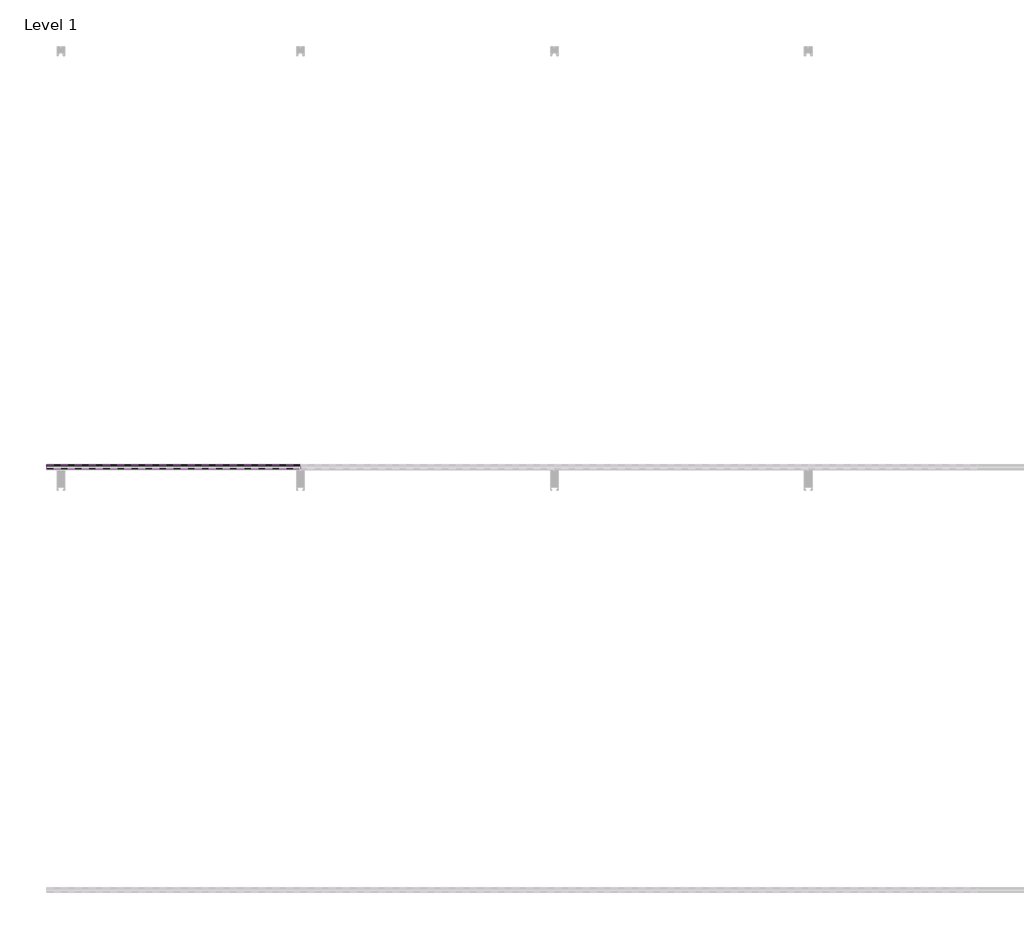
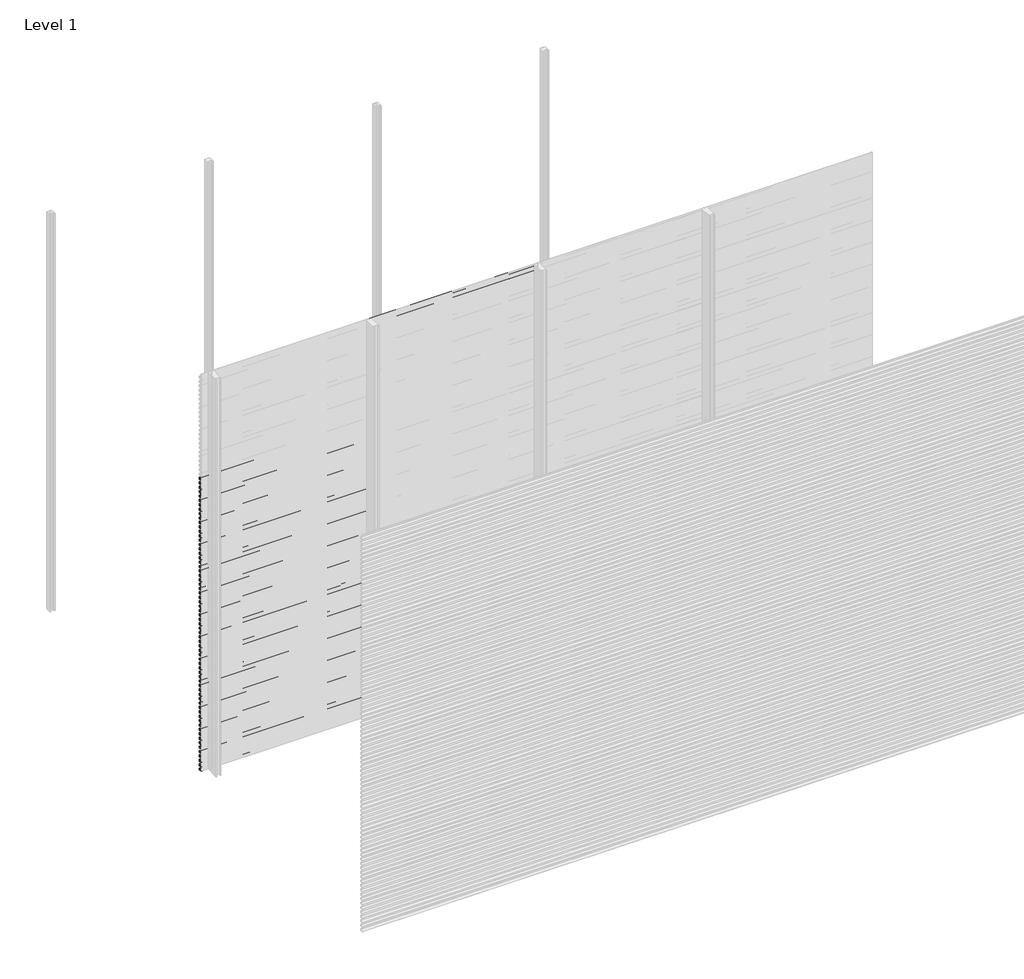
# One storey, part 50 of 77: 72 proxies.
"""IFC4 building model written with IfcOpenShell, lengths in millimetres."""

from ifc_helpers import new_model, si_unit, frame, origin, place, context, project, spatial, polyline, outline, extrude, element, save

model = new_model("IFC4")

# Units and contexts
model_context = context("Model", 3, world=origin())
ifc_project = project(units=[si_unit("LENGTHUNIT", "METRE", prefix="MILLI")], contexts=[model_context])

# Site, building, storey
site = spatial("IfcSite", under=ifc_project)
building = spatial("IfcBuilding", under=site)
storey = spatial("IfcBuildingStorey", under=building, Name="Level 1", Elevation=0.0)

# Proxies
placement = place(None, origin())
element("IfcBuildingElementProxy", 1, Name="Wall Sweeps", at=placement, inside=storey, context=model_context, shape_type="SweptSolid", body=[
    extrude(outline(polyline([(-17978.6, 2206.6359887), (-17998.0, 2217.8366691), (-17998.0, 2231.1), (-17997.0, 2231.1), (-17997.0, 2218.4191057), (-17977.6, 2207.2185105), (-17977.6, 2193.6185105), (-17978.6, 2195.1953129), (-17978.6, 2201.0032062), (-17995.9773817, 2192.9), (-17996.4, 2193.8063078), (-17978.6, 2202.1065841), (-17978.6, 2206.6359887)])), frame((0.0, 0.0, 0.0), z_axis=(1.0, 0.0, 0.0), x_axis=(0.0, 1.0, 0.0)), (0.0, 0.0, 1.0), 1200.0),
])
element("IfcBuildingElementProxy", 2, Name="Wall Sweeps", at=placement, inside=storey, context=model_context, shape_type="SweptSolid", body=[
    extrude(outline(polyline([(-17978.6, 2173.3359887), (-17998.0, 2184.5366691), (-17998.0, 2197.8), (-17997.0, 2197.8), (-17997.0, 2185.1191057), (-17977.6, 2173.9185105), (-17977.6, 2160.3185105), (-17978.6, 2161.8953129), (-17978.6, 2167.7032062), (-17995.9773817, 2159.6), (-17996.4, 2160.5063078), (-17978.6, 2168.8065841), (-17978.6, 2173.3359887)])), frame((0.0, 0.0, 0.0), z_axis=(1.0, 0.0, 0.0), x_axis=(0.0, 1.0, 0.0)), (0.0, 0.0, 1.0), 1200.0),
])
element("IfcBuildingElementProxy", 3, Name="Wall Sweeps", at=placement, inside=storey, context=model_context, shape_type="SweptSolid", body=[
    extrude(outline(polyline([(-17978.6, 2140.0359887), (-17998.0, 2151.2366691), (-17998.0, 2164.5), (-17997.0, 2164.5), (-17997.0, 2151.8191057), (-17977.6, 2140.6185105), (-17977.6, 2127.0185105), (-17978.6, 2128.5953129), (-17978.6, 2134.4032062), (-17995.9773817, 2126.3), (-17996.4, 2127.2063078), (-17978.6, 2135.5065841), (-17978.6, 2140.0359887)])), frame((0.0, 0.0, 0.0), z_axis=(1.0, 0.0, 0.0), x_axis=(0.0, 1.0, 0.0)), (0.0, 0.0, 1.0), 1200.0),
])
element("IfcBuildingElementProxy", 4, Name="Wall Sweeps", at=placement, inside=storey, context=model_context, shape_type="SweptSolid", body=[
    extrude(outline(polyline([(-17978.6, 2106.7359887), (-17998.0, 2117.9366691), (-17998.0, 2131.2), (-17997.0, 2131.2), (-17997.0, 2118.5191057), (-17977.6, 2107.3185105), (-17977.6, 2093.7185105), (-17978.6, 2095.2953129), (-17978.6, 2101.1032062), (-17995.9773817, 2093.0), (-17996.4, 2093.9063078), (-17978.6, 2102.2065841), (-17978.6, 2106.7359887)])), frame((0.0, 0.0, 0.0), z_axis=(1.0, 0.0, 0.0), x_axis=(0.0, 1.0, 0.0)), (0.0, 0.0, 1.0), 1200.0),
])
element("IfcBuildingElementProxy", 5, Name="Wall Sweeps", at=placement, inside=storey, context=model_context, shape_type="SweptSolid", body=[
    extrude(outline(polyline([(-17978.6, 2073.4359887), (-17998.0, 2084.6366691), (-17998.0, 2097.9), (-17997.0, 2097.9), (-17997.0, 2085.2191057), (-17977.6, 2074.0185105), (-17977.6, 2060.4185105), (-17978.6, 2061.9953129), (-17978.6, 2067.8032062), (-17995.9773817, 2059.7), (-17996.4, 2060.6063078), (-17978.6, 2068.9065841), (-17978.6, 2073.4359887)])), frame((0.0, 0.0, 0.0), z_axis=(1.0, 0.0, 0.0), x_axis=(0.0, 1.0, 0.0)), (0.0, 0.0, 1.0), 1200.0),
])
element("IfcBuildingElementProxy", 6, Name="Wall Sweeps", at=placement, inside=storey, context=model_context, shape_type="SweptSolid", body=[
    extrude(outline(polyline([(-17978.6, 2040.1359887), (-17998.0, 2051.3366691), (-17998.0, 2064.6), (-17997.0, 2064.6), (-17997.0, 2051.9191057), (-17977.6, 2040.7185105), (-17977.6, 2027.1185105), (-17978.6, 2028.6953129), (-17978.6, 2034.5032062), (-17995.9773817, 2026.4), (-17996.4, 2027.3063078), (-17978.6, 2035.6065841), (-17978.6, 2040.1359887)])), frame((0.0, 0.0, 0.0), z_axis=(1.0, 0.0, 0.0), x_axis=(0.0, 1.0, 0.0)), (0.0, 0.0, 1.0), 1200.0),
])
element("IfcBuildingElementProxy", 7, Name="Wall Sweeps", at=placement, inside=storey, context=model_context, shape_type="SweptSolid", body=[
    extrude(outline(polyline([(-17978.6, 2006.8359887), (-17998.0, 2018.0366691), (-17998.0, 2031.3), (-17997.0, 2031.3), (-17997.0, 2018.6191057), (-17977.6, 2007.4185105), (-17977.6, 1993.8185105), (-17978.6, 1995.3953129), (-17978.6, 2001.2032062), (-17995.9773817, 1993.1), (-17996.4, 1994.0063078), (-17978.6, 2002.3065841), (-17978.6, 2006.8359887)])), frame((0.0, 0.0, 0.0), z_axis=(1.0, 0.0, 0.0), x_axis=(0.0, 1.0, 0.0)), (0.0, 0.0, 1.0), 1200.0),
])
element("IfcBuildingElementProxy", 8, Name="Wall Sweeps", at=placement, inside=storey, context=model_context, shape_type="SweptSolid", body=[
    extrude(outline(polyline([(-17978.6, 1973.5359887), (-17998.0, 1984.7366691), (-17998.0, 1998.0), (-17997.0, 1998.0), (-17997.0, 1985.3191057), (-17977.6, 1974.1185105), (-17977.6, 1960.5185105), (-17978.6, 1962.0953129), (-17978.6, 1967.9032062), (-17995.9773817, 1959.8), (-17996.4, 1960.7063078), (-17978.6, 1969.0065841), (-17978.6, 1973.5359887)])), frame((0.0, 0.0, 0.0), z_axis=(1.0, 0.0, 0.0), x_axis=(0.0, 1.0, 0.0)), (0.0, 0.0, 1.0), 1200.0),
])
element("IfcBuildingElementProxy", 9, Name="Wall Sweeps", at=placement, inside=storey, context=model_context, shape_type="SweptSolid", body=[
    extrude(outline(polyline([(-17978.6, 1940.2359887), (-17998.0, 1951.4366691), (-17998.0, 1964.7), (-17997.0, 1964.7), (-17997.0, 1952.0191057), (-17977.6, 1940.8185105), (-17977.6, 1927.2185105), (-17978.6, 1928.7953129), (-17978.6, 1934.6032062), (-17995.9773817, 1926.5), (-17996.4, 1927.4063078), (-17978.6, 1935.7065841), (-17978.6, 1940.2359887)])), frame((0.0, 0.0, 0.0), z_axis=(1.0, 0.0, 0.0), x_axis=(0.0, 1.0, 0.0)), (0.0, 0.0, 1.0), 1200.0),
])
element("IfcBuildingElementProxy", 10, Name="Wall Sweeps", at=placement, inside=storey, context=model_context, shape_type="SweptSolid", body=[
    extrude(outline(polyline([(-17978.6, 1906.9359887), (-17998.0, 1918.1366691), (-17998.0, 1931.4), (-17997.0, 1931.4), (-17997.0, 1918.7191057), (-17977.6, 1907.5185105), (-17977.6, 1893.9185105), (-17978.6, 1895.4953129), (-17978.6, 1901.3032062), (-17995.9773817, 1893.2), (-17996.4, 1894.1063078), (-17978.6, 1902.4065841), (-17978.6, 1906.9359887)])), frame((0.0, 0.0, 0.0), z_axis=(1.0, 0.0, 0.0), x_axis=(0.0, 1.0, 0.0)), (0.0, 0.0, 1.0), 1200.0),
])
element("IfcBuildingElementProxy", 11, Name="Wall Sweeps", at=placement, inside=storey, context=model_context, shape_type="SweptSolid", body=[
    extrude(outline(polyline([(-17978.6, 1873.6359887), (-17998.0, 1884.8366691), (-17998.0, 1898.1), (-17997.0, 1898.1), (-17997.0, 1885.4191057), (-17977.6, 1874.2185105), (-17977.6, 1860.6185105), (-17978.6, 1862.1953129), (-17978.6, 1868.0032062), (-17995.9773817, 1859.9), (-17996.4, 1860.8063078), (-17978.6, 1869.1065841), (-17978.6, 1873.6359887)])), frame((0.0, 0.0, 0.0), z_axis=(1.0, 0.0, 0.0), x_axis=(0.0, 1.0, 0.0)), (0.0, 0.0, 1.0), 1200.0),
])
element("IfcBuildingElementProxy", 12, Name="Wall Sweeps", at=placement, inside=storey, context=model_context, shape_type="SweptSolid", body=[
    extrude(outline(polyline([(-17978.6, 1840.3359887), (-17998.0, 1851.5366691), (-17998.0, 1864.8), (-17997.0, 1864.8), (-17997.0, 1852.1191057), (-17977.6, 1840.9185105), (-17977.6, 1827.3185105), (-17978.6, 1828.8953129), (-17978.6, 1834.7032062), (-17995.9773817, 1826.6), (-17996.4, 1827.5063078), (-17978.6, 1835.8065841), (-17978.6, 1840.3359887)])), frame((0.0, 0.0, 0.0), z_axis=(1.0, 0.0, 0.0), x_axis=(0.0, 1.0, 0.0)), (0.0, 0.0, 1.0), 1200.0),
])
element("IfcBuildingElementProxy", 13, Name="Wall Sweeps", at=placement, inside=storey, context=model_context, shape_type="SweptSolid", body=[
    extrude(outline(polyline([(-17978.6, 1807.0359887), (-17998.0, 1818.2366691), (-17998.0, 1831.5), (-17997.0, 1831.5), (-17997.0, 1818.8191057), (-17977.6, 1807.6185105), (-17977.6, 1794.0185105), (-17978.6, 1795.5953129), (-17978.6, 1801.4032062), (-17995.9773817, 1793.3), (-17996.4, 1794.2063078), (-17978.6, 1802.5065841), (-17978.6, 1807.0359887)])), frame((0.0, 0.0, 0.0), z_axis=(1.0, 0.0, 0.0), x_axis=(0.0, 1.0, 0.0)), (0.0, 0.0, 1.0), 1200.0),
])
element("IfcBuildingElementProxy", 14, Name="Wall Sweeps", at=placement, inside=storey, context=model_context, shape_type="SweptSolid", body=[
    extrude(outline(polyline([(-17978.6, 1773.7359887), (-17998.0, 1784.9366691), (-17998.0, 1798.2), (-17997.0, 1798.2), (-17997.0, 1785.5191057), (-17977.6, 1774.3185105), (-17977.6, 1760.7185105), (-17978.6, 1762.2953129), (-17978.6, 1768.1032062), (-17995.9773817, 1760.0), (-17996.4, 1760.9063078), (-17978.6, 1769.2065841), (-17978.6, 1773.7359887)])), frame((0.0, 0.0, 0.0), z_axis=(1.0, 0.0, 0.0), x_axis=(0.0, 1.0, 0.0)), (0.0, 0.0, 1.0), 1200.0),
])
element("IfcBuildingElementProxy", 15, Name="Wall Sweeps", at=placement, inside=storey, context=model_context, shape_type="SweptSolid", body=[
    extrude(outline(polyline([(-17978.6, 1740.4359887), (-17998.0, 1751.6366691), (-17998.0, 1764.9), (-17997.0, 1764.9), (-17997.0, 1752.2191057), (-17977.6, 1741.0185105), (-17977.6, 1727.4185105), (-17978.6, 1728.9953129), (-17978.6, 1734.8032062), (-17995.9773817, 1726.7), (-17996.4, 1727.6063078), (-17978.6, 1735.9065841), (-17978.6, 1740.4359887)])), frame((0.0, 0.0, 0.0), z_axis=(1.0, 0.0, 0.0), x_axis=(0.0, 1.0, 0.0)), (0.0, 0.0, 1.0), 1200.0),
])
element("IfcBuildingElementProxy", 16, Name="Wall Sweeps", at=placement, inside=storey, context=model_context, shape_type="SweptSolid", body=[
    extrude(outline(polyline([(-17978.6, 1707.1359887), (-17998.0, 1718.3366691), (-17998.0, 1731.6), (-17997.0, 1731.6), (-17997.0, 1718.9191057), (-17977.6, 1707.7185105), (-17977.6, 1694.1185105), (-17978.6, 1695.6953129), (-17978.6, 1701.5032062), (-17995.9773817, 1693.4), (-17996.4, 1694.3063078), (-17978.6, 1702.6065841), (-17978.6, 1707.1359887)])), frame((0.0, 0.0, 0.0), z_axis=(1.0, 0.0, 0.0), x_axis=(0.0, 1.0, 0.0)), (0.0, 0.0, 1.0), 1200.0),
])
element("IfcBuildingElementProxy", 17, Name="Wall Sweeps", at=placement, inside=storey, context=model_context, shape_type="SweptSolid", body=[
    extrude(outline(polyline([(-17978.6, 1673.8359887), (-17998.0, 1685.0366691), (-17998.0, 1698.3), (-17997.0, 1698.3), (-17997.0, 1685.6191057), (-17977.6, 1674.4185105), (-17977.6, 1660.8185105), (-17978.6, 1662.3953129), (-17978.6, 1668.2032062), (-17995.9773817, 1660.1), (-17996.4, 1661.0063078), (-17978.6, 1669.3065841), (-17978.6, 1673.8359887)])), frame((0.0, 0.0, 0.0), z_axis=(1.0, 0.0, 0.0), x_axis=(0.0, 1.0, 0.0)), (0.0, 0.0, 1.0), 1200.0),
])
element("IfcBuildingElementProxy", 18, Name="Wall Sweeps", at=placement, inside=storey, context=model_context, shape_type="SweptSolid", body=[
    extrude(outline(polyline([(-17978.6, 1640.5359887), (-17998.0, 1651.7366691), (-17998.0, 1665.0), (-17997.0, 1665.0), (-17997.0, 1652.3191057), (-17977.6, 1641.1185105), (-17977.6, 1627.5185105), (-17978.6, 1629.0953129), (-17978.6, 1634.9032062), (-17995.9773817, 1626.8), (-17996.4, 1627.7063078), (-17978.6, 1636.0065841), (-17978.6, 1640.5359887)])), frame((0.0, 0.0, 0.0), z_axis=(1.0, 0.0, 0.0), x_axis=(0.0, 1.0, 0.0)), (0.0, 0.0, 1.0), 1200.0),
])
element("IfcBuildingElementProxy", 19, Name="Wall Sweeps", at=placement, inside=storey, context=model_context, shape_type="SweptSolid", body=[
    extrude(outline(polyline([(-17978.6, 1607.2359887), (-17998.0, 1618.4366691), (-17998.0, 1631.7), (-17997.0, 1631.7), (-17997.0, 1619.0191057), (-17977.6, 1607.8185105), (-17977.6, 1594.2185105), (-17978.6, 1595.7953129), (-17978.6, 1601.6032062), (-17995.9773817, 1593.5), (-17996.4, 1594.4063078), (-17978.6, 1602.7065841), (-17978.6, 1607.2359887)])), frame((0.0, 0.0, 0.0), z_axis=(1.0, 0.0, 0.0), x_axis=(0.0, 1.0, 0.0)), (0.0, 0.0, 1.0), 1200.0),
])
element("IfcBuildingElementProxy", 20, Name="Wall Sweeps", at=placement, inside=storey, context=model_context, shape_type="SweptSolid", body=[
    extrude(outline(polyline([(-17978.6, 1573.9359887), (-17998.0, 1585.1366691), (-17998.0, 1598.4), (-17997.0, 1598.4), (-17997.0, 1585.7191057), (-17977.6, 1574.5185105), (-17977.6, 1560.9185105), (-17978.6, 1562.4953129), (-17978.6, 1568.3032062), (-17995.9773817, 1560.2), (-17996.4, 1561.1063078), (-17978.6, 1569.4065841), (-17978.6, 1573.9359887)])), frame((0.0, 0.0, 0.0), z_axis=(1.0, 0.0, 0.0), x_axis=(0.0, 1.0, 0.0)), (0.0, 0.0, 1.0), 1200.0),
])
element("IfcBuildingElementProxy", 21, Name="Wall Sweeps", at=placement, inside=storey, context=model_context, shape_type="SweptSolid", body=[
    extrude(outline(polyline([(-17978.6, 1540.6359887), (-17998.0, 1551.8366691), (-17998.0, 1565.1), (-17997.0, 1565.1), (-17997.0, 1552.4191057), (-17977.6, 1541.2185105), (-17977.6, 1527.6185105), (-17978.6, 1529.1953129), (-17978.6, 1535.0032062), (-17995.9773817, 1526.9), (-17996.4, 1527.8063078), (-17978.6, 1536.1065841), (-17978.6, 1540.6359887)])), frame((0.0, 0.0, 0.0), z_axis=(1.0, 0.0, 0.0), x_axis=(0.0, 1.0, 0.0)), (0.0, 0.0, 1.0), 1200.0),
])
element("IfcBuildingElementProxy", 22, Name="Wall Sweeps", at=placement, inside=storey, context=model_context, shape_type="SweptSolid", body=[
    extrude(outline(polyline([(-17978.6, 1507.3359887), (-17998.0, 1518.5366691), (-17998.0, 1531.8), (-17997.0, 1531.8), (-17997.0, 1519.1191057), (-17977.6, 1507.9185105), (-17977.6, 1494.3185105), (-17978.6, 1495.8953129), (-17978.6, 1501.7032062), (-17995.9773817, 1493.6), (-17996.4, 1494.5063078), (-17978.6, 1502.8065841), (-17978.6, 1507.3359887)])), frame((0.0, 0.0, 0.0), z_axis=(1.0, 0.0, 0.0), x_axis=(0.0, 1.0, 0.0)), (0.0, 0.0, 1.0), 1200.0),
])
element("IfcBuildingElementProxy", 23, Name="Wall Sweeps", at=placement, inside=storey, context=model_context, shape_type="SweptSolid", body=[
    extrude(outline(polyline([(-17978.6, 1474.0359887), (-17998.0, 1485.2366691), (-17998.0, 1498.5), (-17997.0, 1498.5), (-17997.0, 1485.8191057), (-17977.6, 1474.6185105), (-17977.6, 1461.0185105), (-17978.6, 1462.5953129), (-17978.6, 1468.4032062), (-17995.9773817, 1460.3), (-17996.4, 1461.2063078), (-17978.6, 1469.5065841), (-17978.6, 1474.0359887)])), frame((0.0, 0.0, 0.0), z_axis=(1.0, 0.0, 0.0), x_axis=(0.0, 1.0, 0.0)), (0.0, 0.0, 1.0), 1200.0),
])
element("IfcBuildingElementProxy", 24, Name="Wall Sweeps", at=placement, inside=storey, context=model_context, shape_type="SweptSolid", body=[
    extrude(outline(polyline([(-17978.6, 1440.7359887), (-17998.0, 1451.9366691), (-17998.0, 1465.2), (-17997.0, 1465.2), (-17997.0, 1452.5191057), (-17977.6, 1441.3185105), (-17977.6, 1427.7185105), (-17978.6, 1429.2953129), (-17978.6, 1435.1032062), (-17995.9773817, 1427.0), (-17996.4, 1427.9063078), (-17978.6, 1436.2065841), (-17978.6, 1440.7359887)])), frame((0.0, 0.0, 0.0), z_axis=(1.0, 0.0, 0.0), x_axis=(0.0, 1.0, 0.0)), (0.0, 0.0, 1.0), 1200.0),
])
element("IfcBuildingElementProxy", 25, Name="Wall Sweeps", at=placement, inside=storey, context=model_context, shape_type="SweptSolid", body=[
    extrude(outline(polyline([(-17978.6, 1407.4359887), (-17998.0, 1418.6366691), (-17998.0, 1431.9), (-17997.0, 1431.9), (-17997.0, 1419.2191057), (-17977.6, 1408.0185105), (-17977.6, 1394.4185105), (-17978.6, 1395.9953129), (-17978.6, 1401.8032062), (-17995.9773817, 1393.7), (-17996.4, 1394.6063078), (-17978.6, 1402.9065841), (-17978.6, 1407.4359887)])), frame((0.0, 0.0, 0.0), z_axis=(1.0, 0.0, 0.0), x_axis=(0.0, 1.0, 0.0)), (0.0, 0.0, 1.0), 1200.0),
])
element("IfcBuildingElementProxy", 26, Name="Wall Sweeps", at=placement, inside=storey, context=model_context, shape_type="SweptSolid", body=[
    extrude(outline(polyline([(-17978.6, 1374.1359887), (-17998.0, 1385.3366691), (-17998.0, 1398.6), (-17997.0, 1398.6), (-17997.0, 1385.9191057), (-17977.6, 1374.7185105), (-17977.6, 1361.1185105), (-17978.6, 1362.6953129), (-17978.6, 1368.5032062), (-17995.9773817, 1360.4), (-17996.4, 1361.3063078), (-17978.6, 1369.6065841), (-17978.6, 1374.1359887)])), frame((0.0, 0.0, 0.0), z_axis=(1.0, 0.0, 0.0), x_axis=(0.0, 1.0, 0.0)), (0.0, 0.0, 1.0), 1200.0),
])
element("IfcBuildingElementProxy", 27, Name="Wall Sweeps", at=placement, inside=storey, context=model_context, shape_type="SweptSolid", body=[
    extrude(outline(polyline([(-17978.6, 1340.8359887), (-17998.0, 1352.0366691), (-17998.0, 1365.3), (-17997.0, 1365.3), (-17997.0, 1352.6191057), (-17977.6, 1341.4185105), (-17977.6, 1327.8185105), (-17978.6, 1329.3953129), (-17978.6, 1335.2032062), (-17995.9773817, 1327.1), (-17996.4, 1328.0063078), (-17978.6, 1336.3065841), (-17978.6, 1340.8359887)])), frame((0.0, 0.0, 0.0), z_axis=(1.0, 0.0, 0.0), x_axis=(0.0, 1.0, 0.0)), (0.0, 0.0, 1.0), 1200.0),
])
element("IfcBuildingElementProxy", 28, Name="Wall Sweeps", at=placement, inside=storey, context=model_context, shape_type="SweptSolid", body=[
    extrude(outline(polyline([(-17978.6, 1307.5359887), (-17998.0, 1318.7366691), (-17998.0, 1332.0), (-17997.0, 1332.0), (-17997.0, 1319.3191057), (-17977.6, 1308.1185105), (-17977.6, 1294.5185105), (-17978.6, 1296.0953129), (-17978.6, 1301.9032062), (-17995.9773817, 1293.8), (-17996.4, 1294.7063078), (-17978.6, 1303.0065841), (-17978.6, 1307.5359887)])), frame((0.0, 0.0, 0.0), z_axis=(1.0, 0.0, 0.0), x_axis=(0.0, 1.0, 0.0)), (0.0, 0.0, 1.0), 1200.0),
])
element("IfcBuildingElementProxy", 29, Name="Wall Sweeps", at=placement, inside=storey, context=model_context, shape_type="SweptSolid", body=[
    extrude(outline(polyline([(-17978.6, 1274.2359887), (-17998.0, 1285.4366691), (-17998.0, 1298.7), (-17997.0, 1298.7), (-17997.0, 1286.0191057), (-17977.6, 1274.8185105), (-17977.6, 1261.2185105), (-17978.6, 1262.7953129), (-17978.6, 1268.6032062), (-17995.9773817, 1260.5), (-17996.4, 1261.4063078), (-17978.6, 1269.7065841), (-17978.6, 1274.2359887)])), frame((0.0, 0.0, 0.0), z_axis=(1.0, 0.0, 0.0), x_axis=(0.0, 1.0, 0.0)), (0.0, 0.0, 1.0), 1200.0),
])
element("IfcBuildingElementProxy", 30, Name="Wall Sweeps", at=placement, inside=storey, context=model_context, shape_type="SweptSolid", body=[
    extrude(outline(polyline([(-17978.6, 1240.9359887), (-17998.0, 1252.1366691), (-17998.0, 1265.4), (-17997.0, 1265.4), (-17997.0, 1252.7191057), (-17977.6, 1241.5185105), (-17977.6, 1227.9185105), (-17978.6, 1229.4953129), (-17978.6, 1235.3032062), (-17995.9773817, 1227.2), (-17996.4, 1228.1063078), (-17978.6, 1236.4065841), (-17978.6, 1240.9359887)])), frame((0.0, 0.0, 0.0), z_axis=(1.0, 0.0, 0.0), x_axis=(0.0, 1.0, 0.0)), (0.0, 0.0, 1.0), 1200.0),
])
element("IfcBuildingElementProxy", 31, Name="Wall Sweeps", at=placement, inside=storey, context=model_context, shape_type="SweptSolid", body=[
    extrude(outline(polyline([(-17978.6, 1207.6359887), (-17998.0, 1218.8366691), (-17998.0, 1232.1), (-17997.0, 1232.1), (-17997.0, 1219.4191057), (-17977.6, 1208.2185105), (-17977.6, 1194.6185105), (-17978.6, 1196.1953129), (-17978.6, 1202.0032062), (-17995.9773817, 1193.9), (-17996.4, 1194.8063078), (-17978.6, 1203.1065841), (-17978.6, 1207.6359887)])), frame((0.0, 0.0, 0.0), z_axis=(1.0, 0.0, 0.0), x_axis=(0.0, 1.0, 0.0)), (0.0, 0.0, 1.0), 1200.0),
])
element("IfcBuildingElementProxy", 32, Name="Wall Sweeps", at=placement, inside=storey, context=model_context, shape_type="SweptSolid", body=[
    extrude(outline(polyline([(-17978.6, 1174.3359887), (-17998.0, 1185.5366691), (-17998.0, 1198.8), (-17997.0, 1198.8), (-17997.0, 1186.1191057), (-17977.6, 1174.9185105), (-17977.6, 1161.3185105), (-17978.6, 1162.8953129), (-17978.6, 1168.7032062), (-17995.9773817, 1160.6), (-17996.4, 1161.5063078), (-17978.6, 1169.8065841), (-17978.6, 1174.3359887)])), frame((0.0, 0.0, 0.0), z_axis=(1.0, 0.0, 0.0), x_axis=(0.0, 1.0, 0.0)), (0.0, 0.0, 1.0), 1200.0),
])
element("IfcBuildingElementProxy", 33, Name="Wall Sweeps", at=placement, inside=storey, context=model_context, shape_type="SweptSolid", body=[
    extrude(outline(polyline([(-17978.6, 1141.0359887), (-17998.0, 1152.2366691), (-17998.0, 1165.5), (-17997.0, 1165.5), (-17997.0, 1152.8191057), (-17977.6, 1141.6185105), (-17977.6, 1128.0185105), (-17978.6, 1129.5953129), (-17978.6, 1135.4032062), (-17995.9773817, 1127.3), (-17996.4, 1128.2063078), (-17978.6, 1136.5065841), (-17978.6, 1141.0359887)])), frame((0.0, 0.0, 0.0), z_axis=(1.0, 0.0, 0.0), x_axis=(0.0, 1.0, 0.0)), (0.0, 0.0, 1.0), 1200.0),
])
element("IfcBuildingElementProxy", 34, Name="Wall Sweeps", at=placement, inside=storey, context=model_context, shape_type="SweptSolid", body=[
    extrude(outline(polyline([(-17978.6, 1107.7359887), (-17998.0, 1118.9366691), (-17998.0, 1132.2), (-17997.0, 1132.2), (-17997.0, 1119.5191057), (-17977.6, 1108.3185105), (-17977.6, 1094.7185105), (-17978.6, 1096.2953129), (-17978.6, 1102.1032062), (-17995.9773817, 1094.0), (-17996.4, 1094.9063078), (-17978.6, 1103.2065841), (-17978.6, 1107.7359887)])), frame((0.0, 0.0, 0.0), z_axis=(1.0, 0.0, 0.0), x_axis=(0.0, 1.0, 0.0)), (0.0, 0.0, 1.0), 1200.0),
])
element("IfcBuildingElementProxy", 35, Name="Wall Sweeps", at=placement, inside=storey, context=model_context, shape_type="SweptSolid", body=[
    extrude(outline(polyline([(-17978.6, 1074.4359887), (-17998.0, 1085.6366691), (-17998.0, 1098.9), (-17997.0, 1098.9), (-17997.0, 1086.2191057), (-17977.6, 1075.0185105), (-17977.6, 1061.4185105), (-17978.6, 1062.9953129), (-17978.6, 1068.8032062), (-17995.9773817, 1060.7), (-17996.4, 1061.6063078), (-17978.6, 1069.9065841), (-17978.6, 1074.4359887)])), frame((0.0, 0.0, 0.0), z_axis=(1.0, 0.0, 0.0), x_axis=(0.0, 1.0, 0.0)), (0.0, 0.0, 1.0), 1200.0),
])
element("IfcBuildingElementProxy", 36, Name="Wall Sweeps", at=placement, inside=storey, context=model_context, shape_type="SweptSolid", body=[
    extrude(outline(polyline([(-17978.6, 1041.1359887), (-17998.0, 1052.3366691), (-17998.0, 1065.6), (-17997.0, 1065.6), (-17997.0, 1052.9191057), (-17977.6, 1041.7185105), (-17977.6, 1028.1185105), (-17978.6, 1029.6953129), (-17978.6, 1035.5032062), (-17995.9773817, 1027.4), (-17996.4, 1028.3063078), (-17978.6, 1036.6065841), (-17978.6, 1041.1359887)])), frame((0.0, 0.0, 0.0), z_axis=(1.0, 0.0, 0.0), x_axis=(0.0, 1.0, 0.0)), (0.0, 0.0, 1.0), 1200.0),
])
element("IfcBuildingElementProxy", 37, Name="Wall Sweeps", at=placement, inside=storey, context=model_context, shape_type="SweptSolid", body=[
    extrude(outline(polyline([(-17978.6, 1007.8359887), (-17998.0, 1019.0366691), (-17998.0, 1032.3), (-17997.0, 1032.3), (-17997.0, 1019.6191057), (-17977.6, 1008.4185105), (-17977.6, 994.8185105), (-17978.6, 996.3953129), (-17978.6, 1002.2032062), (-17995.9773817, 994.1), (-17996.4, 995.0063078), (-17978.6, 1003.3065841), (-17978.6, 1007.8359887)])), frame((0.0, 0.0, 0.0), z_axis=(1.0, 0.0, 0.0), x_axis=(0.0, 1.0, 0.0)), (0.0, 0.0, 1.0), 1200.0),
])
element("IfcBuildingElementProxy", 38, Name="Wall Sweeps", at=placement, inside=storey, context=model_context, shape_type="SweptSolid", body=[
    extrude(outline(polyline([(-17978.6, 974.5359887), (-17998.0, 985.7366691), (-17998.0, 999.0), (-17997.0, 999.0), (-17997.0, 986.3191057), (-17977.6, 975.1185105), (-17977.6, 961.5185105), (-17978.6, 963.0953129), (-17978.6, 968.9032062), (-17995.9773817, 960.8), (-17996.4, 961.7063078), (-17978.6, 970.0065841), (-17978.6, 974.5359887)])), frame((0.0, 0.0, 0.0), z_axis=(1.0, 0.0, 0.0), x_axis=(0.0, 1.0, 0.0)), (0.0, 0.0, 1.0), 1200.0),
])
element("IfcBuildingElementProxy", 39, Name="Wall Sweeps", at=placement, inside=storey, context=model_context, shape_type="SweptSolid", body=[
    extrude(outline(polyline([(-17978.6, 941.2359887), (-17998.0, 952.4366691), (-17998.0, 965.7), (-17997.0, 965.7), (-17997.0, 953.0191057), (-17977.6, 941.8185105), (-17977.6, 928.2185105), (-17978.6, 929.7953129), (-17978.6, 935.6032062), (-17995.9773817, 927.5), (-17996.4, 928.4063078), (-17978.6, 936.7065841), (-17978.6, 941.2359887)])), frame((0.0, 0.0, 0.0), z_axis=(1.0, 0.0, 0.0), x_axis=(0.0, 1.0, 0.0)), (0.0, 0.0, 1.0), 1200.0),
])
element("IfcBuildingElementProxy", 40, Name="Wall Sweeps", at=placement, inside=storey, context=model_context, shape_type="SweptSolid", body=[
    extrude(outline(polyline([(-17978.6, 907.9359887), (-17998.0, 919.1366691), (-17998.0, 932.4), (-17997.0, 932.4), (-17997.0, 919.7191057), (-17977.6, 908.5185105), (-17977.6, 894.9185105), (-17978.6, 896.4953129), (-17978.6, 902.3032062), (-17995.9773817, 894.2), (-17996.4, 895.1063078), (-17978.6, 903.4065841), (-17978.6, 907.9359887)])), frame((0.0, 0.0, 0.0), z_axis=(1.0, 0.0, 0.0), x_axis=(0.0, 1.0, 0.0)), (0.0, 0.0, 1.0), 1200.0),
])
element("IfcBuildingElementProxy", 41, Name="Wall Sweeps", at=placement, inside=storey, context=model_context, shape_type="SweptSolid", body=[
    extrude(outline(polyline([(-17978.6, 874.6359887), (-17998.0, 885.8366691), (-17998.0, 899.1), (-17997.0, 899.1), (-17997.0, 886.4191057), (-17977.6, 875.2185105), (-17977.6, 861.6185105), (-17978.6, 863.1953129), (-17978.6, 869.0032062), (-17995.9773817, 860.9), (-17996.4, 861.8063078), (-17978.6, 870.1065841), (-17978.6, 874.6359887)])), frame((0.0, 0.0, 0.0), z_axis=(1.0, 0.0, 0.0), x_axis=(0.0, 1.0, 0.0)), (0.0, 0.0, 1.0), 1200.0),
])
element("IfcBuildingElementProxy", 42, Name="Wall Sweeps", at=placement, inside=storey, context=model_context, shape_type="SweptSolid", body=[
    extrude(outline(polyline([(-17978.6, 841.3359887), (-17998.0, 852.5366691), (-17998.0, 865.8), (-17997.0, 865.8), (-17997.0, 853.1191057), (-17977.6, 841.9185105), (-17977.6, 828.3185105), (-17978.6, 829.8953129), (-17978.6, 835.7032062), (-17995.9773817, 827.6), (-17996.4, 828.5063078), (-17978.6, 836.8065841), (-17978.6, 841.3359887)])), frame((0.0, 0.0, 0.0), z_axis=(1.0, 0.0, 0.0), x_axis=(0.0, 1.0, 0.0)), (0.0, 0.0, 1.0), 1200.0),
])
element("IfcBuildingElementProxy", 43, Name="Wall Sweeps", at=placement, inside=storey, context=model_context, shape_type="SweptSolid", body=[
    extrude(outline(polyline([(-17978.6, 808.0359887), (-17998.0, 819.2366691), (-17998.0, 832.5), (-17997.0, 832.5), (-17997.0, 819.8191057), (-17977.6, 808.6185105), (-17977.6, 795.0185105), (-17978.6, 796.5953129), (-17978.6, 802.4032062), (-17995.9773817, 794.3), (-17996.4, 795.2063078), (-17978.6, 803.5065841), (-17978.6, 808.0359887)])), frame((0.0, 0.0, 0.0), z_axis=(1.0, 0.0, 0.0), x_axis=(0.0, 1.0, 0.0)), (0.0, 0.0, 1.0), 1200.0),
])
element("IfcBuildingElementProxy", 44, Name="Wall Sweeps", at=placement, inside=storey, context=model_context, shape_type="SweptSolid", body=[
    extrude(outline(polyline([(-17978.6, 774.7359887), (-17998.0, 785.9366691), (-17998.0, 799.2), (-17997.0, 799.2), (-17997.0, 786.5191057), (-17977.6, 775.3185105), (-17977.6, 761.7185105), (-17978.6, 763.2953129), (-17978.6, 769.1032062), (-17995.9773817, 761.0), (-17996.4, 761.9063078), (-17978.6, 770.2065841), (-17978.6, 774.7359887)])), frame((0.0, 0.0, 0.0), z_axis=(1.0, 0.0, 0.0), x_axis=(0.0, 1.0, 0.0)), (0.0, 0.0, 1.0), 1200.0),
])
element("IfcBuildingElementProxy", 45, Name="Wall Sweeps", at=placement, inside=storey, context=model_context, shape_type="SweptSolid", body=[
    extrude(outline(polyline([(-17978.6, 741.4359887), (-17998.0, 752.6366691), (-17998.0, 765.9), (-17997.0, 765.9), (-17997.0, 753.2191057), (-17977.6, 742.0185105), (-17977.6, 728.4185105), (-17978.6, 729.9953129), (-17978.6, 735.8032062), (-17995.9773817, 727.7), (-17996.4, 728.6063078), (-17978.6, 736.9065841), (-17978.6, 741.4359887)])), frame((0.0, 0.0, 0.0), z_axis=(1.0, 0.0, 0.0), x_axis=(0.0, 1.0, 0.0)), (0.0, 0.0, 1.0), 1200.0),
])
element("IfcBuildingElementProxy", 46, Name="Wall Sweeps", at=placement, inside=storey, context=model_context, shape_type="SweptSolid", body=[
    extrude(outline(polyline([(-17978.6, 708.1359887), (-17998.0, 719.3366691), (-17998.0, 732.6), (-17997.0, 732.6), (-17997.0, 719.9191057), (-17977.6, 708.7185105), (-17977.6, 695.1185105), (-17978.6, 696.6953129), (-17978.6, 702.5032062), (-17995.9773817, 694.4), (-17996.4, 695.3063078), (-17978.6, 703.6065841), (-17978.6, 708.1359887)])), frame((0.0, 0.0, 0.0), z_axis=(1.0, 0.0, 0.0), x_axis=(0.0, 1.0, 0.0)), (0.0, 0.0, 1.0), 1200.0),
])
element("IfcBuildingElementProxy", 47, Name="Wall Sweeps", at=placement, inside=storey, context=model_context, shape_type="SweptSolid", body=[
    extrude(outline(polyline([(-17978.6, 674.8359887), (-17998.0, 686.0366691), (-17998.0, 699.3), (-17997.0, 699.3), (-17997.0, 686.6191057), (-17977.6, 675.4185105), (-17977.6, 661.8185105), (-17978.6, 663.3953129), (-17978.6, 669.2032062), (-17995.9773817, 661.1), (-17996.4, 662.0063078), (-17978.6, 670.3065841), (-17978.6, 674.8359887)])), frame((0.0, 0.0, 0.0), z_axis=(1.0, 0.0, 0.0), x_axis=(0.0, 1.0, 0.0)), (0.0, 0.0, 1.0), 1200.0),
])
element("IfcBuildingElementProxy", 48, Name="Wall Sweeps", at=placement, inside=storey, context=model_context, shape_type="SweptSolid", body=[
    extrude(outline(polyline([(-17978.6, 641.5359887), (-17998.0, 652.7366691), (-17998.0, 666.0), (-17997.0, 666.0), (-17997.0, 653.3191057), (-17977.6, 642.1185105), (-17977.6, 628.5185105), (-17978.6, 630.0953129), (-17978.6, 635.9032062), (-17995.9773817, 627.8), (-17996.4, 628.7063078), (-17978.6, 637.0065841), (-17978.6, 641.5359887)])), frame((0.0, 0.0, 0.0), z_axis=(1.0, 0.0, 0.0), x_axis=(0.0, 1.0, 0.0)), (0.0, 0.0, 1.0), 1200.0),
])
element("IfcBuildingElementProxy", 49, Name="Wall Sweeps", at=placement, inside=storey, context=model_context, shape_type="SweptSolid", body=[
    extrude(outline(polyline([(-17978.6, 608.2359887), (-17998.0, 619.4366691), (-17998.0, 632.7), (-17997.0, 632.7), (-17997.0, 620.0191057), (-17977.6, 608.8185105), (-17977.6, 595.2185105), (-17978.6, 596.7953129), (-17978.6, 602.6032062), (-17995.9773817, 594.5), (-17996.4, 595.4063078), (-17978.6, 603.7065841), (-17978.6, 608.2359887)])), frame((0.0, 0.0, 0.0), z_axis=(1.0, 0.0, 0.0), x_axis=(0.0, 1.0, 0.0)), (0.0, 0.0, 1.0), 1200.0),
])
element("IfcBuildingElementProxy", 50, Name="Wall Sweeps", at=placement, inside=storey, context=model_context, shape_type="SweptSolid", body=[
    extrude(outline(polyline([(-17978.6, 574.9359887), (-17998.0, 586.1366691), (-17998.0, 599.4), (-17997.0, 599.4), (-17997.0, 586.7191057), (-17977.6, 575.5185105), (-17977.6, 561.9185105), (-17978.6, 563.4953129), (-17978.6, 569.3032062), (-17995.9773817, 561.2), (-17996.4, 562.1063078), (-17978.6, 570.4065841), (-17978.6, 574.9359887)])), frame((0.0, 0.0, 0.0), z_axis=(1.0, 0.0, 0.0), x_axis=(0.0, 1.0, 0.0)), (0.0, 0.0, 1.0), 1200.0),
])
element("IfcBuildingElementProxy", 51, Name="Wall Sweeps", at=placement, inside=storey, context=model_context, shape_type="SweptSolid", body=[
    extrude(outline(polyline([(-17978.6, 541.6359887), (-17998.0, 552.8366691), (-17998.0, 566.1), (-17997.0, 566.1), (-17997.0, 553.4191057), (-17977.6, 542.2185105), (-17977.6, 528.6185105), (-17978.6, 530.1953129), (-17978.6, 536.0032062), (-17995.9773817, 527.9), (-17996.4, 528.8063078), (-17978.6, 537.1065841), (-17978.6, 541.6359887)])), frame((0.0, 0.0, 0.0), z_axis=(1.0, 0.0, 0.0), x_axis=(0.0, 1.0, 0.0)), (0.0, 0.0, 1.0), 1200.0),
])
element("IfcBuildingElementProxy", 52, Name="Wall Sweeps", at=placement, inside=storey, context=model_context, shape_type="SweptSolid", body=[
    extrude(outline(polyline([(-17978.6, 508.3359887), (-17998.0, 519.5366691), (-17998.0, 532.8), (-17997.0, 532.8), (-17997.0, 520.1191057), (-17977.6, 508.9185105), (-17977.6, 495.3185105), (-17978.6, 496.8953129), (-17978.6, 502.7032062), (-17995.9773817, 494.6), (-17996.4, 495.5063078), (-17978.6, 503.8065841), (-17978.6, 508.3359887)])), frame((0.0, 0.0, 0.0), z_axis=(1.0, 0.0, 0.0), x_axis=(0.0, 1.0, 0.0)), (0.0, 0.0, 1.0), 1200.0),
])
element("IfcBuildingElementProxy", 53, Name="Wall Sweeps", at=placement, inside=storey, context=model_context, shape_type="SweptSolid", body=[
    extrude(outline(polyline([(-17978.6, 475.0359887), (-17998.0, 486.2366691), (-17998.0, 499.5), (-17997.0, 499.5), (-17997.0, 486.8191057), (-17977.6, 475.6185105), (-17977.6, 462.0185105), (-17978.6, 463.5953129), (-17978.6, 469.4032062), (-17995.9773817, 461.3), (-17996.4, 462.2063078), (-17978.6, 470.5065841), (-17978.6, 475.0359887)])), frame((0.0, 0.0, 0.0), z_axis=(1.0, 0.0, 0.0), x_axis=(0.0, 1.0, 0.0)), (0.0, 0.0, 1.0), 1200.0),
])
element("IfcBuildingElementProxy", 54, Name="Wall Sweeps", at=placement, inside=storey, context=model_context, shape_type="SweptSolid", body=[
    extrude(outline(polyline([(-17978.6, 441.7359887), (-17998.0, 452.9366691), (-17998.0, 466.2), (-17997.0, 466.2), (-17997.0, 453.5191057), (-17977.6, 442.3185105), (-17977.6, 428.7185105), (-17978.6, 430.2953129), (-17978.6, 436.1032062), (-17995.9773817, 428.0), (-17996.4, 428.9063078), (-17978.6, 437.2065841), (-17978.6, 441.7359887)])), frame((0.0, 0.0, 0.0), z_axis=(1.0, 0.0, 0.0), x_axis=(0.0, 1.0, 0.0)), (0.0, 0.0, 1.0), 1200.0),
])
element("IfcBuildingElementProxy", 55, Name="Wall Sweeps", at=placement, inside=storey, context=model_context, shape_type="SweptSolid", body=[
    extrude(outline(polyline([(-17978.6, 408.4359887), (-17998.0, 419.6366691), (-17998.0, 432.9), (-17997.0, 432.9), (-17997.0, 420.2191057), (-17977.6, 409.0185105), (-17977.6, 395.4185105), (-17978.6, 396.9953129), (-17978.6, 402.8032062), (-17995.9773817, 394.7), (-17996.4, 395.6063078), (-17978.6, 403.9065841), (-17978.6, 408.4359887)])), frame((0.0, 0.0, 0.0), z_axis=(1.0, 0.0, 0.0), x_axis=(0.0, 1.0, 0.0)), (0.0, 0.0, 1.0), 1200.0),
])
element("IfcBuildingElementProxy", 56, Name="Wall Sweeps", at=placement, inside=storey, context=model_context, shape_type="SweptSolid", body=[
    extrude(outline(polyline([(-17978.6, 375.1359887), (-17998.0, 386.3366691), (-17998.0, 399.6), (-17997.0, 399.6), (-17997.0, 386.9191057), (-17977.6, 375.7185105), (-17977.6, 362.1185105), (-17978.6, 363.6953129), (-17978.6, 369.5032062), (-17995.9773817, 361.4), (-17996.4, 362.3063078), (-17978.6, 370.6065841), (-17978.6, 375.1359887)])), frame((0.0, 0.0, 0.0), z_axis=(1.0, 0.0, 0.0), x_axis=(0.0, 1.0, 0.0)), (0.0, 0.0, 1.0), 1200.0),
])
element("IfcBuildingElementProxy", 57, Name="Wall Sweeps", at=placement, inside=storey, context=model_context, shape_type="SweptSolid", body=[
    extrude(outline(polyline([(-17978.6, 341.8359887), (-17998.0, 353.0366691), (-17998.0, 366.3), (-17997.0, 366.3), (-17997.0, 353.6191057), (-17977.6, 342.4185105), (-17977.6, 328.8185105), (-17978.6, 330.3953129), (-17978.6, 336.2032062), (-17995.9773817, 328.1), (-17996.4, 329.0063078), (-17978.6, 337.3065841), (-17978.6, 341.8359887)])), frame((0.0, 0.0, 0.0), z_axis=(1.0, 0.0, 0.0), x_axis=(0.0, 1.0, 0.0)), (0.0, 0.0, 1.0), 1200.0),
])
element("IfcBuildingElementProxy", 58, Name="Wall Sweeps", at=placement, inside=storey, context=model_context, shape_type="SweptSolid", body=[
    extrude(outline(polyline([(-17978.6, 308.5359887), (-17998.0, 319.7366691), (-17998.0, 333.0), (-17997.0, 333.0), (-17997.0, 320.3191057), (-17977.6, 309.1185105), (-17977.6, 295.5185105), (-17978.6, 297.0953129), (-17978.6, 302.9032062), (-17995.9773817, 294.8), (-17996.4, 295.7063078), (-17978.6, 304.0065841), (-17978.6, 308.5359887)])), frame((0.0, 0.0, 0.0), z_axis=(1.0, 0.0, 0.0), x_axis=(0.0, 1.0, 0.0)), (0.0, 0.0, 1.0), 1200.0),
])
element("IfcBuildingElementProxy", 59, Name="Wall Sweeps", at=placement, inside=storey, context=model_context, shape_type="SweptSolid", body=[
    extrude(outline(polyline([(-17978.6, 275.2359887), (-17998.0, 286.4366691), (-17998.0, 299.7), (-17997.0, 299.7), (-17997.0, 287.0191057), (-17977.6, 275.8185105), (-17977.6, 262.2185105), (-17978.6, 263.7953129), (-17978.6, 269.6032062), (-17995.9773817, 261.5), (-17996.4, 262.4063078), (-17978.6, 270.7065841), (-17978.6, 275.2359887)])), frame((0.0, 0.0, 0.0), z_axis=(1.0, 0.0, 0.0), x_axis=(0.0, 1.0, 0.0)), (0.0, 0.0, 1.0), 1200.0),
])
element("IfcBuildingElementProxy", 60, Name="Wall Sweeps", at=placement, inside=storey, context=model_context, shape_type="SweptSolid", body=[
    extrude(outline(polyline([(-17978.6, 241.9359887), (-17998.0, 253.1366691), (-17998.0, 266.4), (-17997.0, 266.4), (-17997.0, 253.7191057), (-17977.6, 242.5185105), (-17977.6, 228.9185105), (-17978.6, 230.4953129), (-17978.6, 236.3032062), (-17995.9773817, 228.2), (-17996.4, 229.1063078), (-17978.6, 237.4065841), (-17978.6, 241.9359887)])), frame((0.0, 0.0, 0.0), z_axis=(1.0, 0.0, 0.0), x_axis=(0.0, 1.0, 0.0)), (0.0, 0.0, 1.0), 1200.0),
])
element("IfcBuildingElementProxy", 61, Name="Wall Sweeps", at=placement, inside=storey, context=model_context, shape_type="SweptSolid", body=[
    extrude(outline(polyline([(-17978.6, 208.6359887), (-17998.0, 219.8366691), (-17998.0, 233.1), (-17997.0, 233.1), (-17997.0, 220.4191057), (-17977.6, 209.2185105), (-17977.6, 195.6185105), (-17978.6, 197.1953129), (-17978.6, 203.0032062), (-17995.9773817, 194.9), (-17996.4, 195.8063078), (-17978.6, 204.1065841), (-17978.6, 208.6359887)])), frame((0.0, 0.0, 0.0), z_axis=(1.0, 0.0, 0.0), x_axis=(0.0, 1.0, 0.0)), (0.0, 0.0, 1.0), 1200.0),
])
element("IfcBuildingElementProxy", 62, Name="Wall Sweeps", at=placement, inside=storey, context=model_context, shape_type="SweptSolid", body=[
    extrude(outline(polyline([(-17978.6, 175.3359887), (-17998.0, 186.5366691), (-17998.0, 199.8), (-17997.0, 199.8), (-17997.0, 187.1191057), (-17977.6, 175.9185105), (-17977.6, 162.3185105), (-17978.6, 163.8953129), (-17978.6, 169.7032062), (-17995.9773817, 161.6), (-17996.4, 162.5063078), (-17978.6, 170.8065841), (-17978.6, 175.3359887)])), frame((0.0, 0.0, 0.0), z_axis=(1.0, 0.0, 0.0), x_axis=(0.0, 1.0, 0.0)), (0.0, 0.0, 1.0), 1200.0),
])
element("IfcBuildingElementProxy", 63, Name="Wall Sweeps", at=placement, inside=storey, context=model_context, shape_type="SweptSolid", body=[
    extrude(outline(polyline([(-17978.6, 142.0359887), (-17998.0, 153.2366691), (-17998.0, 166.5), (-17997.0, 166.5), (-17997.0, 153.8191057), (-17977.6, 142.6185105), (-17977.6, 129.0185105), (-17978.6, 130.5953129), (-17978.6, 136.4032062), (-17995.9773817, 128.3), (-17996.4, 129.2063078), (-17978.6, 137.5065841), (-17978.6, 142.0359887)])), frame((0.0, 0.0, 0.0), z_axis=(1.0, 0.0, 0.0), x_axis=(0.0, 1.0, 0.0)), (0.0, 0.0, 1.0), 1200.0),
])
element("IfcBuildingElementProxy", 64, Name="Wall Sweeps", at=placement, inside=storey, context=model_context, shape_type="SweptSolid", body=[
    extrude(outline(polyline([(-17978.6, 108.7359887), (-17998.0, 119.9366691), (-17998.0, 133.2), (-17997.0, 133.2), (-17997.0, 120.5191057), (-17977.6, 109.3185105), (-17977.6, 95.7185105), (-17978.6, 97.2953129), (-17978.6, 103.1032062), (-17995.9773817, 95.0), (-17996.4, 95.9063078), (-17978.6, 104.2065841), (-17978.6, 108.7359887)])), frame((0.0, 0.0, 0.0), z_axis=(1.0, 0.0, 0.0), x_axis=(0.0, 1.0, 0.0)), (0.0, 0.0, 1.0), 1200.0),
])
element("IfcBuildingElementProxy", 65, Name="Wall Sweeps", at=placement, inside=storey, context=model_context, shape_type="SweptSolid", body=[
    extrude(outline(polyline([(-17978.6, 75.4359887), (-17998.0, 86.6366691), (-17998.0, 99.9), (-17997.0, 99.9), (-17997.0, 87.2191057), (-17977.6, 76.0185105), (-17977.6, 62.4185105), (-17978.6, 63.9953129), (-17978.6, 69.8032062), (-17995.9773817, 61.7), (-17996.4, 62.6063078), (-17978.6, 70.9065841), (-17978.6, 75.4359887)])), frame((0.0, 0.0, 0.0), z_axis=(1.0, 0.0, 0.0), x_axis=(0.0, 1.0, 0.0)), (0.0, 0.0, 1.0), 1200.0),
])
element("IfcBuildingElementProxy", 66, Name="Wall Sweeps", at=placement, inside=storey, context=model_context, shape_type="SweptSolid", body=[
    extrude(outline(polyline([(-17978.6, 42.1359887), (-17998.0, 53.3366691), (-17998.0, 66.6), (-17997.0, 66.6), (-17997.0, 53.9191057), (-17977.6, 42.7185105), (-17977.6, 29.1185105), (-17978.6, 30.6953129), (-17978.6, 36.5032062), (-17995.9773817, 28.4), (-17996.4, 29.3063078), (-17978.6, 37.6065841), (-17978.6, 42.1359887)])), frame((0.0, 0.0, 0.0), z_axis=(1.0, 0.0, 0.0), x_axis=(0.0, 1.0, 0.0)), (0.0, 0.0, 1.0), 1200.0),
])
element("IfcBuildingElementProxy", 67, Name="Wall Sweeps", at=placement, inside=storey, context=model_context, shape_type="SweptSolid", body=[
    extrude(outline(polyline([(-17978.6, 8.8359887), (-17998.0, 20.0366691), (-17998.0, 33.3), (-17997.0, 33.3), (-17997.0, 20.6191057), (-17977.6, 9.4185105), (-17977.6, -4.1814895), (-17978.6, -2.6046871), (-17978.6, 3.2032062), (-17995.9773817, -4.9), (-17996.4, -3.9936922), (-17978.6, 4.3065841), (-17978.6, 8.8359887)])), frame((0.0, 0.0, 0.0), z_axis=(1.0, 0.0, 0.0), x_axis=(0.0, 1.0, 0.0)), (0.0, 0.0, 1.0), 1200.0),
])
element("IfcBuildingElementProxy", 68, Name="Wall Sweeps", at=placement, inside=storey, context=model_context, shape_type="SweptSolid", body=[
    extrude(outline(polyline([(-17978.6, 2972.5359887), (-17998.0, 2983.7366691), (-17998.0, 2997.0), (-17997.0, 2997.0), (-17997.0, 2984.3191057), (-17977.6, 2973.1185105), (-17977.6, 2959.5185105), (-17978.6, 2961.0953129), (-17978.6, 2966.9032062), (-17995.9773817, 2958.8), (-17996.4, 2959.7063078), (-17978.6, 2968.0065841), (-17978.6, 2972.5359887)])), frame((1200.0, 0.0, 0.0), z_axis=(1.0, 0.0, 0.0), x_axis=(0.0, 1.0, 0.0)), (0.0, 0.0, 1.0), 1200.0),
])
element("IfcBuildingElementProxy", 69, Name="Wall Sweeps", at=placement, inside=storey, context=model_context, shape_type="SweptSolid", body=[
    extrude(outline(polyline([(-17978.6, 2939.2359887), (-17998.0, 2950.4366691), (-17998.0, 2963.7), (-17997.0, 2963.7), (-17997.0, 2951.0191057), (-17977.6, 2939.8185105), (-17977.6, 2926.2185105), (-17978.6, 2927.7953129), (-17978.6, 2933.6032062), (-17995.9773817, 2925.5), (-17996.4, 2926.4063078), (-17978.6, 2934.7065841), (-17978.6, 2939.2359887)])), frame((1200.0, 0.0, 0.0), z_axis=(1.0, 0.0, 0.0), x_axis=(0.0, 1.0, 0.0)), (0.0, 0.0, 1.0), 1200.0),
])
element("IfcBuildingElementProxy", 70, Name="Wall Sweeps", at=placement, inside=storey, context=model_context, shape_type="SweptSolid", body=[
    extrude(outline(polyline([(-17978.6, 2905.9359887), (-17998.0, 2917.1366691), (-17998.0, 2930.4), (-17997.0, 2930.4), (-17997.0, 2917.7191057), (-17977.6, 2906.5185105), (-17977.6, 2892.9185105), (-17978.6, 2894.4953129), (-17978.6, 2900.3032062), (-17995.9773817, 2892.2), (-17996.4, 2893.1063078), (-17978.6, 2901.4065841), (-17978.6, 2905.9359887)])), frame((1200.0, 0.0, 0.0), z_axis=(1.0, 0.0, 0.0), x_axis=(0.0, 1.0, 0.0)), (0.0, 0.0, 1.0), 1200.0),
])
element("IfcBuildingElementProxy", 71, Name="Wall Sweeps", at=placement, inside=storey, context=model_context, shape_type="SweptSolid", body=[
    extrude(outline(polyline([(-17978.6, 2872.6359887), (-17998.0, 2883.8366691), (-17998.0, 2897.1), (-17997.0, 2897.1), (-17997.0, 2884.4191057), (-17977.6, 2873.2185105), (-17977.6, 2859.6185105), (-17978.6, 2861.1953129), (-17978.6, 2867.0032062), (-17995.9773817, 2858.9), (-17996.4, 2859.8063078), (-17978.6, 2868.1065841), (-17978.6, 2872.6359887)])), frame((1200.0, 0.0, 0.0), z_axis=(1.0, 0.0, 0.0), x_axis=(0.0, 1.0, 0.0)), (0.0, 0.0, 1.0), 1200.0),
])
element("IfcBuildingElementProxy", 72, Name="Wall Sweeps", at=placement, inside=storey, context=model_context, shape_type="SweptSolid", body=[
    extrude(outline(polyline([(-17978.6, 2839.3359887), (-17998.0, 2850.5366691), (-17998.0, 2863.8), (-17997.0, 2863.8), (-17997.0, 2851.1191057), (-17977.6, 2839.9185105), (-17977.6, 2826.3185105), (-17978.6, 2827.8953129), (-17978.6, 2833.7032062), (-17995.9773817, 2825.6), (-17996.4, 2826.5063078), (-17978.6, 2834.8065841), (-17978.6, 2839.3359887)])), frame((1200.0, 0.0, 0.0), z_axis=(1.0, 0.0, 0.0), x_axis=(0.0, 1.0, 0.0)), (0.0, 0.0, 1.0), 1200.0),
])

save(model, "model.ifc")
